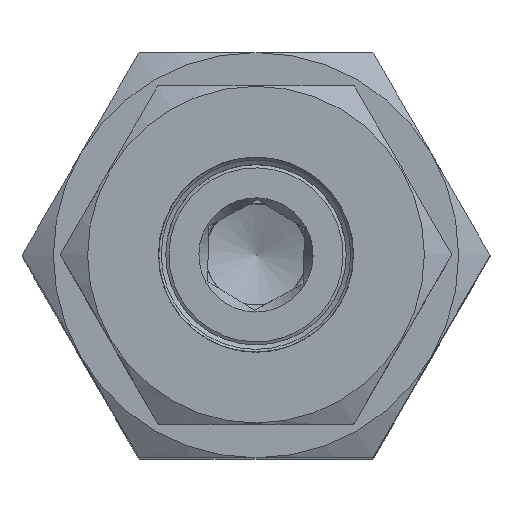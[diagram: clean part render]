
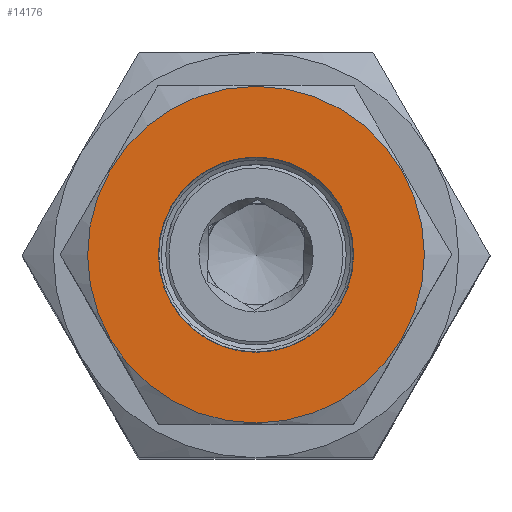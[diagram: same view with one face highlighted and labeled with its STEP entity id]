
A CAD part, top view. The second image highlights one B-rep face of the part: STEP entity #14176.
In plain terms, the highlighted planar face has unit normal (0, 0, 1) as drawn and (-1, 0, 0) by its records, which use the part's own axes.
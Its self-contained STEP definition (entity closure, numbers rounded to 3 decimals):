
#908 = CARTESIAN_POINT ( 'NONE',  ( 0., 0., 0. ) ) ;
#1079 = VERTEX_POINT ( 'NONE', #15600 ) ;
#1867 = CARTESIAN_POINT ( 'NONE',  ( 0., 0., 0. ) ) ;
#2952 = EDGE_LOOP ( 'NONE', ( #12727 ) ) ;
#4586 = EDGE_CURVE ( 'NONE', #1079, #1079, #19390, .T. ) ;
#5763 = DIRECTION ( 'NONE',  ( 0., 0., 1. ) ) ;
#5817 = DIRECTION ( 'NONE',  ( -1., 0., 0. ) ) ;
#6113 = PLANE ( 'NONE',  #16753 ) ;
#7382 = DIRECTION ( 'NONE',  ( 0., 0., 1. ) ) ;
#7792 = FACE_OUTER_BOUND ( 'NONE', #2952, .T. ) ;
#9602 = EDGE_LOOP ( 'NONE', ( #11148 ) ) ;
#10244 = EDGE_CURVE ( 'NONE', #15077, #15077, #16266, .T. ) ;
#11148 = ORIENTED_EDGE ( 'NONE', *, *, #4586, .T. ) ;
#11615 = DIRECTION ( 'NONE',  ( -1., 0., 0. ) ) ;
#11934 = DIRECTION ( 'NONE',  ( 0., 0., 1. ) ) ;
#12047 = DIRECTION ( 'NONE',  ( 1., 0., 0. ) ) ;
#12727 = ORIENTED_EDGE ( 'NONE', *, *, #10244, .T. ) ;
#14176 = ADVANCED_FACE ( 'NONE', ( #17158, #7792 ), #6113, .T. ) ;
#15077 = VERTEX_POINT ( 'NONE', #22166 ) ;
#15600 = CARTESIAN_POINT ( 'NONE',  ( 0., 0., 13.25 ) ) ;
#16266 = CIRCLE ( 'NONE', #22352, 22.85 ) ;
#16753 = AXIS2_PLACEMENT_3D ( 'NONE', #20394, #11615, #5763 ) ;
#17158 = FACE_BOUND ( 'NONE', #9602, .T. ) ;
#19390 = CIRCLE ( 'NONE', #23586, 13.25 ) ;
#20394 = CARTESIAN_POINT ( 'NONE',  ( 0., 0., 0. ) ) ;
#22166 = CARTESIAN_POINT ( 'NONE',  ( 0., 0., 22.85 ) ) ;
#22352 = AXIS2_PLACEMENT_3D ( 'NONE', #1867, #5817, #7382 ) ;
#23586 = AXIS2_PLACEMENT_3D ( 'NONE', #908, #12047, #11934 ) ;
